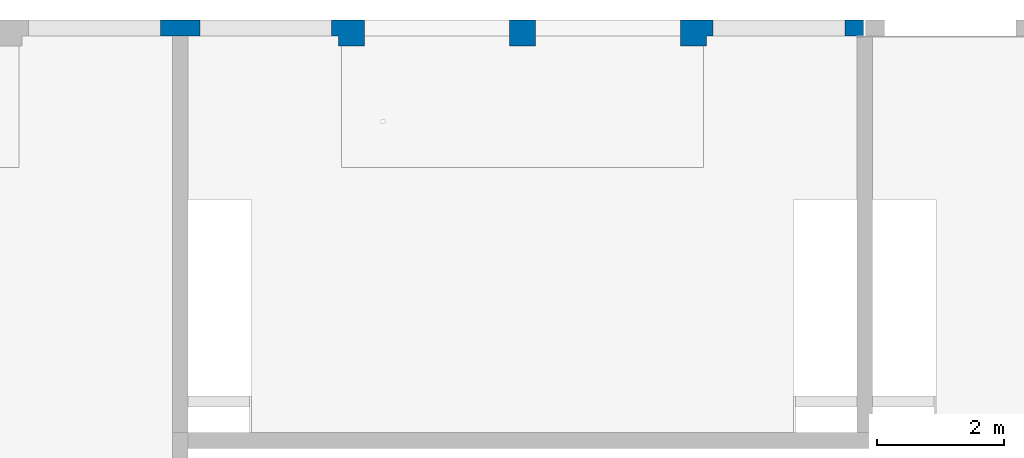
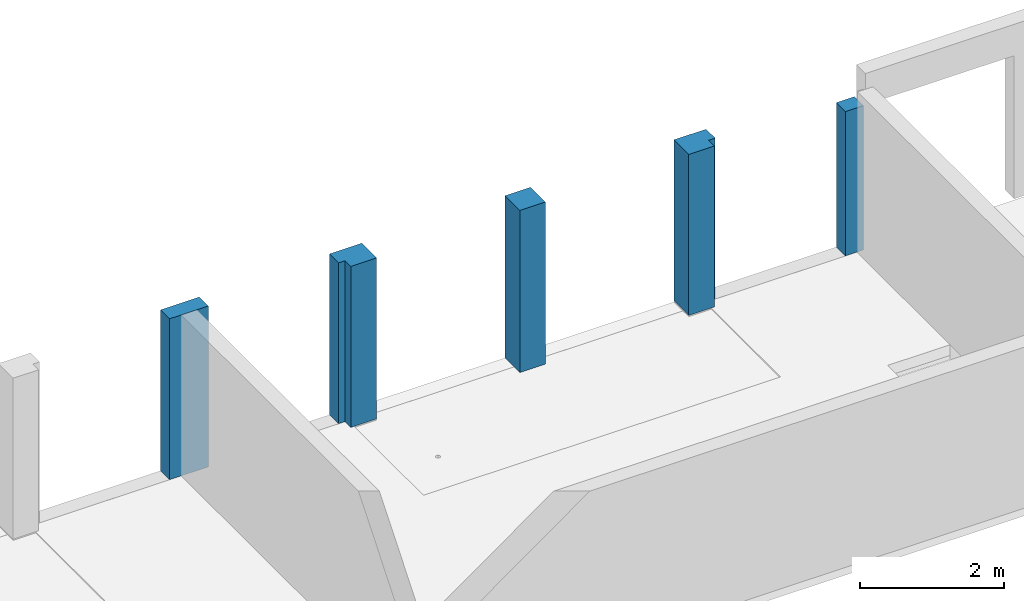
# One storey, part 5 of 22: 5 columns.
"""IFC2X3 building model written with IfcOpenShell, lengths in millimetres."""

from ifc_helpers import new_model, entity, si_unit, converted_unit, derived_unit, direction, frame, origin, origin_2d_with_axis, place, context, subcontext, project, spatial, polyline, rectangle, outline, extrude, source, transform, mapped, material, type_object, type_shapes, element, save


model = new_model("IFC2X3")

# Units and contexts
model_context = context("Model", 3, precision=0.01, world=origin(), true_north=direction((6.12303176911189e-17, 1.0)))
body_context = subcontext(model_context, "Body", "Model", "MODEL_VIEW")
ifc_project = project(units=[si_unit("LENGTHUNIT", "METRE", prefix="MILLI"), si_unit("AREAUNIT", "SQUARE_METRE"), si_unit("VOLUMEUNIT", "CUBIC_METRE"), converted_unit("PLANEANGLEUNIT", "DEGREE", entity("IfcRatioMeasure", 0.0174532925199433), si_unit("PLANEANGLEUNIT", "RADIAN"), dimensions=[0, 0, 0, 0, 0, 0, 0]), si_unit("MASSUNIT", "GRAM", prefix="KILO"), derived_unit("MASSDENSITYUNIT", [(si_unit("MASSUNIT", "GRAM", prefix="KILO"), 1), (si_unit("LENGTHUNIT", "METRE"), -3)]), si_unit("TIMEUNIT", "SECOND"), si_unit("FREQUENCYUNIT", "HERTZ"), si_unit("THERMODYNAMICTEMPERATUREUNIT", "DEGREE_CELSIUS"), derived_unit("THERMALTRANSMITTANCEUNIT", [(si_unit("MASSUNIT", "GRAM", prefix="KILO"), 1), (si_unit("THERMODYNAMICTEMPERATUREUNIT", "KELVIN"), -1), (si_unit("TIMEUNIT", "SECOND"), -3)]), derived_unit("VOLUMETRICFLOWRATEUNIT", [(si_unit("LENGTHUNIT", "METRE"), 3), (si_unit("TIMEUNIT", "SECOND"), -1)]), si_unit("ELECTRICCURRENTUNIT", "AMPERE"), si_unit("ELECTRICVOLTAGEUNIT", "VOLT"), si_unit("POWERUNIT", "WATT"), si_unit("FORCEUNIT", "NEWTON", prefix="KILO"), si_unit("ILLUMINANCEUNIT", "LUX"), si_unit("LUMINOUSFLUXUNIT", "LUMEN"), si_unit("LUMINOUSINTENSITYUNIT", "CANDELA"), derived_unit("USERDEFINED", [(si_unit("MASSUNIT", "GRAM", prefix="KILO"), -1), (si_unit("LENGTHUNIT", "METRE"), -2), (si_unit("TIMEUNIT", "SECOND"), 3), (si_unit("LUMINOUSFLUXUNIT", "LUMEN"), 1)]), derived_unit("LINEARVELOCITYUNIT", [(si_unit("LENGTHUNIT", "METRE"), 1), (si_unit("TIMEUNIT", "SECOND"), -1)]), si_unit("PRESSUREUNIT", "PASCAL"), derived_unit("USERDEFINED", [(si_unit("LENGTHUNIT", "METRE"), -2), (si_unit("MASSUNIT", "GRAM", prefix="KILO"), 1), (si_unit("TIMEUNIT", "SECOND"), -2)])], contexts=[model_context])

# Site, building, storey
site_placement = place(None, origin())
site = spatial("IfcSite", under=ifc_project, at=site_placement, Name="Default", CompositionType="ELEMENT")
building_placement = place(site_placement, origin())
building = spatial("IfcBuilding", under=site, at=building_placement, Name="niet gebruiken", CompositionType="ELEMENT")
storey_placement = place(building_placement, frame((0.0, 0.0, 9630.0)))
storey = spatial("IfcBuildingStorey", under=building, at=storey_placement, Name="03 derde verdieping", CompositionType="ELEMENT", Elevation=9630.00000000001)

# Columns
ifc_material = material(Name="NLRS_f2_beton ihwg")
column_type_1 = type_object("IfcColumnType", Name="620x250", PredefinedType="COLUMN", material=ifc_material)
shared_shape_1 = source(origin(), body_context, "Body", "SweptSolid", [
    extrude(rectangle(XDim=250.000000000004, YDim=619.999999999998, at=origin_2d_with_axis()), frame((48600.0, 53131.0, 9540.0), z_axis=(0.0, 0.0, 1.0), x_axis=(0.0, -1.0, 0.0)), (0.0, 0.0, 1.0), 2720.0),
])
type_shapes(column_type_1, [shared_shape_1])
column_1_placement = place(storey_placement, frame((0.0, 0.0, -9630.0)))
element("IfcColumn", 1, at=column_1_placement, inside=storey, type_object=column_type_1, material=ifc_material, Name="NLRS_28.11_SCO_TLB_beton kolom ihwg_gen:620x250", ObjectType="620x250", context=body_context, shape_type="MappedRepresentation", body=[
    mapped(shared_shape_1, transform((0.0, 0.0, 0.0), scale=1.0)),
])
column_type_2 = type_object("IfcColumnType", Name="515x410/105x160", PredefinedType="COLUMN", material=ifc_material)
shared_shape_2 = source(origin(), body_context, "Body", "SweptSolid", [
    extrude(outline(polyline([(-220.0, -206.666666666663), (30.0, -206.666666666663), (30.0, -101.666666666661), (190.0, -101.666666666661), (190.0, 308.333333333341), (-220.0, 308.333333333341), (-220.0, -206.666666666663)])), frame((51196.6666666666, 53036.0, 9540.0), z_axis=(0.0, 0.0, 1.0), x_axis=(0.0, -1.0, 0.0)), (0.0, 0.0, 1.0), 2720.0),
])
type_shapes(column_type_2, [shared_shape_2])
column_2_placement = place(storey_placement, frame((0.0, 0.0, -9630.0)))
element("IfcColumn", 2, at=column_2_placement, inside=storey, type_object=column_type_2, material=ifc_material, Name="NLRS_28.11_SCO_TLB_beton kolom ihwg enkele sponning_gen:515x410/105x160", ObjectType="515x410/105x160", context=body_context, shape_type="MappedRepresentation", body=[
    mapped(shared_shape_2, transform((0.0, 0.0, 0.0), scale=1.0)),
])
column_type_3 = type_object("IfcColumnType", Name="410x410", PredefinedType="COLUMN", material=ifc_material)
shared_shape_3 = source(origin(), body_context, "Body", "SweptSolid", [
    extrude(rectangle(XDim=410.000000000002, YDim=410.000000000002, at=origin_2d_with_axis()), frame((54000.0, 53051.0, 9520.0), z_axis=(0.0, 0.0, 1.0), x_axis=(0.0, -1.0, 0.0)), (0.0, 0.0, 1.0), 2740.0),
])
type_shapes(column_type_3, [shared_shape_3])
column_3_placement = place(storey_placement, frame((0.0, 0.0, -9630.0)))
element("IfcColumn", 3, at=column_3_placement, inside=storey, type_object=column_type_3, material=ifc_material, Name="NLRS_28.11_SCO_TLB_beton kolom ihwg_gen:410x410", ObjectType="410x410", context=body_context, shape_type="MappedRepresentation", body=[
    mapped(shared_shape_3, transform((0.0, 0.0, 0.0), scale=1.0)),
])
column_type_4 = type_object("IfcColumnType", Name="515x410/105x160", PredefinedType="COLUMN", material=ifc_material)
shared_shape_4 = source(origin(), body_context, "Body", "SweptSolid", [
    extrude(outline(polyline([(-220.0, -308.333333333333), (190.0, -308.333333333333), (190.0, 101.66666666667), (30.0, 101.66666666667), (30.0, 206.666666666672), (-220.0, 206.666666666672), (-220.0, -308.333333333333)])), frame((56803.3333333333, 53036.0, 9540.0), z_axis=(0.0, 0.0, 1.0), x_axis=(0.0, -1.0, 0.0)), (0.0, 0.0, 1.0), 2720.0),
])
type_shapes(column_type_4, [shared_shape_4])
column_4_placement = place(storey_placement, frame((0.0, 0.0, -9630.0)))
element("IfcColumn", 4, at=column_4_placement, inside=storey, type_object=column_type_4, material=ifc_material, Name="NLRS_28.11_SCO_TLB_beton kolom ihwg enkele sponning_gen:515x410/105x160", ObjectType="515x410/105x160", context=body_context, shape_type="MappedRepresentation", body=[
    mapped(shared_shape_4, transform((0.0, 0.0, 0.0), scale=1.0)),
])
column_type_5 = type_object("IfcColumnType", Name="290x250", PredefinedType="COLUMN", material=ifc_material)
shared_shape_5 = source(origin(), body_context, "Body", "SweptSolid", [
    extrude(rectangle(XDim=250.000000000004, YDim=290.000000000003, at=origin_2d_with_axis()), frame((59235.0, 53131.0, 9540.0), z_axis=(0.0, 0.0, 1.0), x_axis=(0.0, -1.0, 0.0)), (0.0, 0.0, 1.0), 2440.0),
])
type_shapes(column_type_5, [shared_shape_5])
column_5_placement = place(storey_placement, frame((0.0, 0.0, -9630.0)))
element("IfcColumn", 5, at=column_5_placement, inside=storey, type_object=column_type_5, material=ifc_material, Name="NLRS_28.11_SCO_TLB_beton kolom ihwg_gen:290x250", ObjectType="290x250", context=body_context, shape_type="MappedRepresentation", body=[
    mapped(shared_shape_5, transform((0.0, 0.0, 0.0), scale=1.0)),
])

save(model, "model.ifc")
